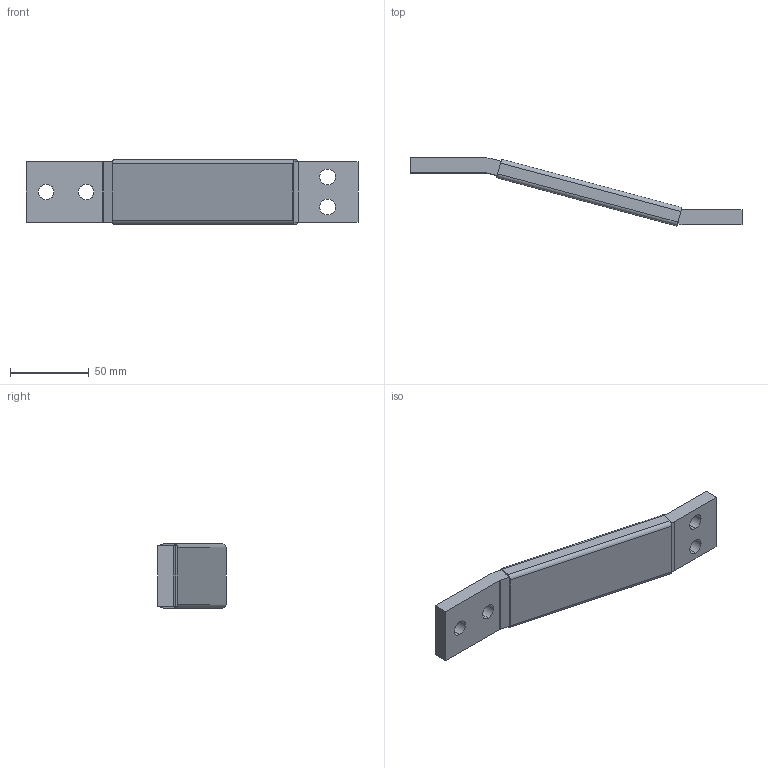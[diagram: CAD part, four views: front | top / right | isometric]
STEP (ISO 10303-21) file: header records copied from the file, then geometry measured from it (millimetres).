
FILE_DESCRIPTION (( 'STEP AP214' ), '1' );
FILE_NAME ('1106193.STEP', '2020-01-28T21:28:44', ( '' ), ( '' ), 'SwSTEP 2.0', 'SolidWorks 2014', '' );
FILE_SCHEMA (( 'AUTOMOTIVE_DESIGN' ));
Length unit declared in the file: inch
Products named in the file (2): 1106193
Bounding box: 210.45 x 43.11 x 40.64 mm (x, y, z)
Volume: 89082.1 mm3; surface area: 45246.8 mm2
Topology: 2 solids, 2 shells, 36 faces, 96 edges, 64 vertices
Faces by surface type: plane 20, cylinder 16
Entity records: 1686 total; most frequent: DIRECTION 204, CARTESIAN_POINT 198, ORIENTED_EDGE 192, EDGE_CURVE 96, AXIS2_PLACEMENT_3D 70, VERTEX_POINT 64, LINE 64, VECTOR 64
